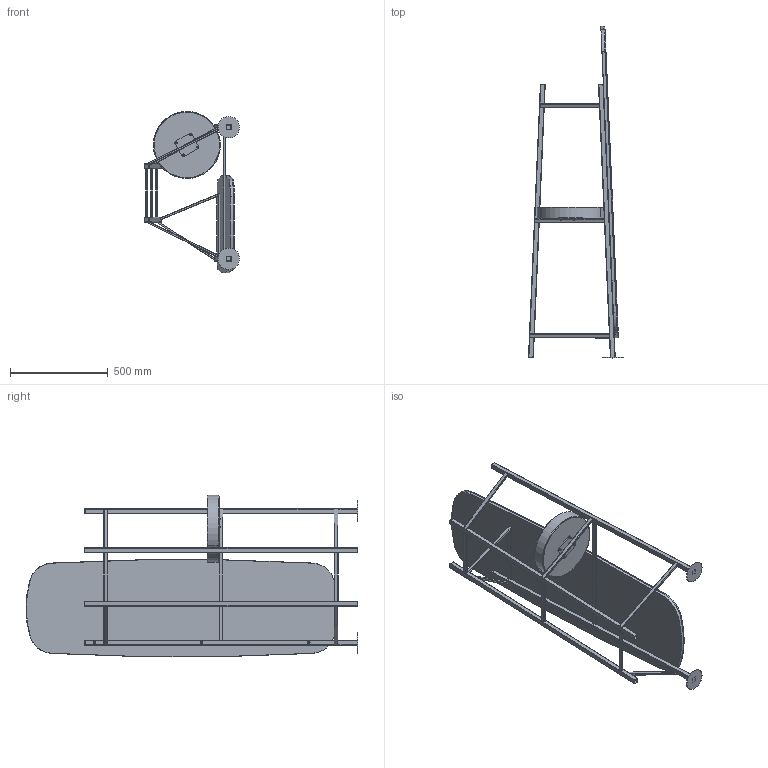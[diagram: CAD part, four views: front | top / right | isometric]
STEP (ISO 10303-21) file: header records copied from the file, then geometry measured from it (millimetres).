
FILE_DESCRIPTION((''),'2;1');
FILE_NAME('ASSIEME_SPECCHIERA_ASM','2021-11-09T',('luca'),(''),'PRO/ENGINEER BY PARAMETRIC TECHNOLOGY CORPORATION, 2010020','PRO/ENGINEER BY PARAMETRIC TECHNOLOGY CORPORATION, 2010020','');
FILE_SCHEMA(('CONFIG_CONTROL_DESIGN'));
Length unit declared in the file: millimetre
Products named in the file (5): STRUTTURA; PANNELLO; SPECCHIO; VASCHETTA; ASSIEME_SPECCHIERA_ASM
Assembly tree (4 placements, depth 2):
  ASSIEME_SPECCHIERA_ASM
    STRUTTURA
    PANNELLO
    SPECCHIO
    VASCHETTA
Bounding box: 487.49 x 1701.79 x 826.52 mm (x, y, z)
Volume: 17919206.2 mm3; surface area: 4735873.6 mm2
Topology: 4 solids, 8 shells, 308 faces, 791 edges, 508 vertices
Faces by surface type: plane 147, cylinder 129, torus 20, cone 10, sphere 2
Entity records: 9669 total; most frequent: CARTESIAN_POINT 1936, DIRECTION 1581, ORIENTED_EDGE 1580, EDGE_CURVE 790, AXIS2_PLACEMENT_3D 559, VERTEX_POINT 507, VECTOR 463, LINE 463
